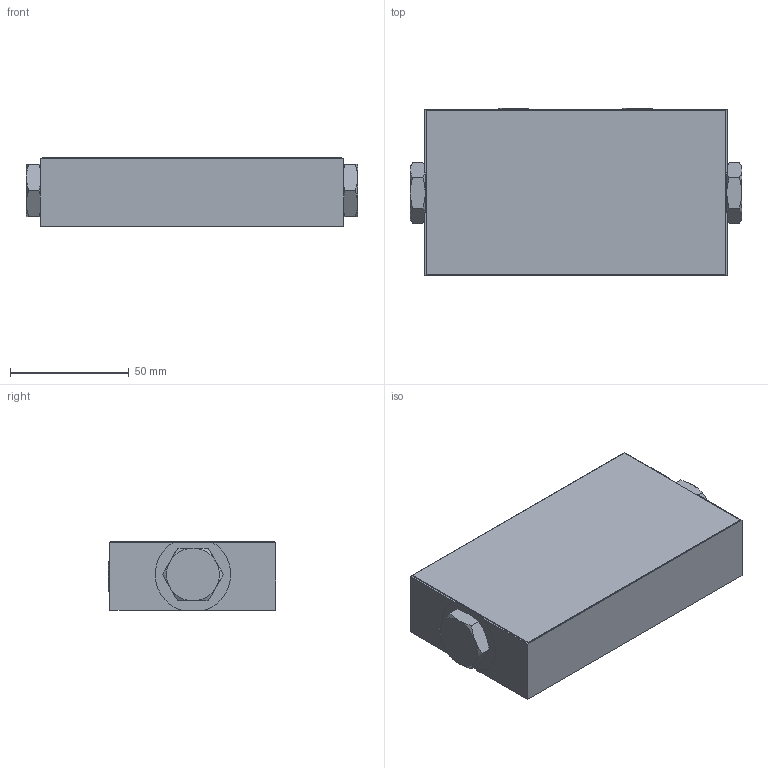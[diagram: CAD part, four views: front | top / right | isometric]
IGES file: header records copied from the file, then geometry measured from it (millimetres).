
Start section:  PTC IGES file: 562515-en-h.igs
Global section: file name: 562515-en-h.igs; native system: Creo Parametric by PTC Inc.; preprocessor: 2019030; author: qusrh3; organization: Unknown; date: 20191231.211834; units: inch
Bounding box: 139.41 x 70.65 x 28.96 mm (x, y, z)
Surface area: 40827 mm2 (no closed solid volume)
Topology: 0 solids, 0 shells, 67 faces, 314 edges, 314 vertices
Faces by surface type: bspline 37, revolution 30
